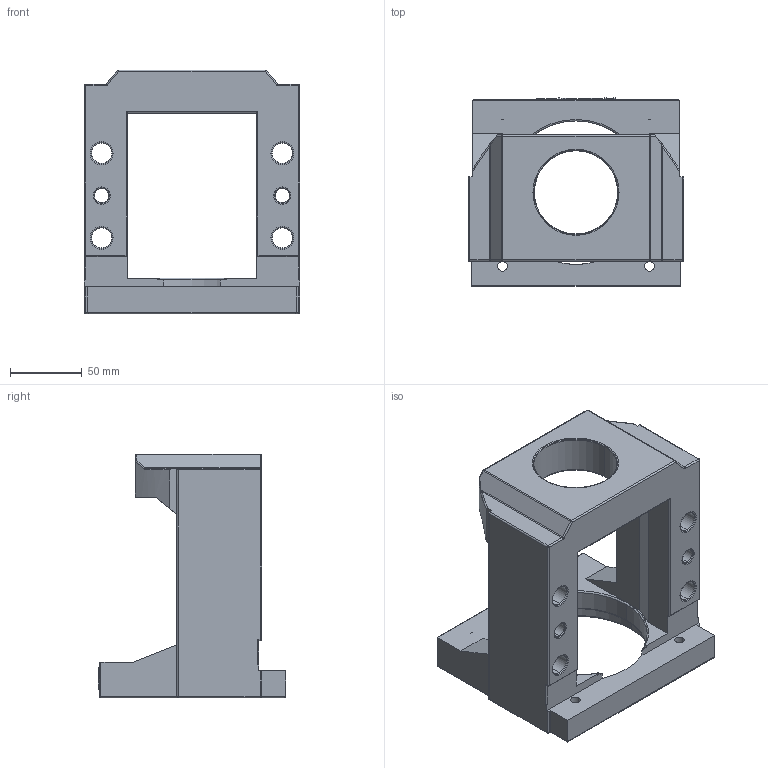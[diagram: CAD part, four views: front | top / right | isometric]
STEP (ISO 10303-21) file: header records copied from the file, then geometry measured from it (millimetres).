
FILE_DESCRIPTION((''),'2;1');
FILE_NAME('M130G-MBK15DF-B','2019-04-20T',('ASUS'),(''),'PRO/ENGINEER BY PARAMETRIC TECHNOLOGY CORPORATION, 2010280','PRO/ENGINEER BY PARAMETRIC TECHNOLOGY CORPORATION, 2010280','');
FILE_SCHEMA(('CONFIG_CONTROL_DESIGN'));
Length unit declared in the file: millimetre
Products named in the file (1): M130G-MBK15DF-B
Bounding box: 150 x 131 x 170 mm (x, y, z)
Volume: 827628.8 mm3; surface area: 131257.9 mm2
Topology: 1 solids, 1 shells, 385 faces, 984 edges, 594 vertices
Faces by surface type: plane 124, cylinder 105, torus 63, extrusion 47, cone 28, sphere 14, bspline 4
Entity records: 12361 total; most frequent: CARTESIAN_POINT 3181, ORIENTED_EDGE 1908, DIRECTION 1848, EDGE_CURVE 954, AXIS2_PLACEMENT_3D 655, VERTEX_POINT 594, VECTOR 538, LINE 491
